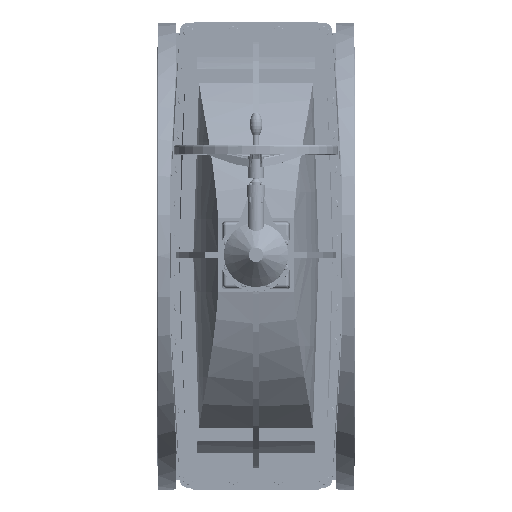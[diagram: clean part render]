
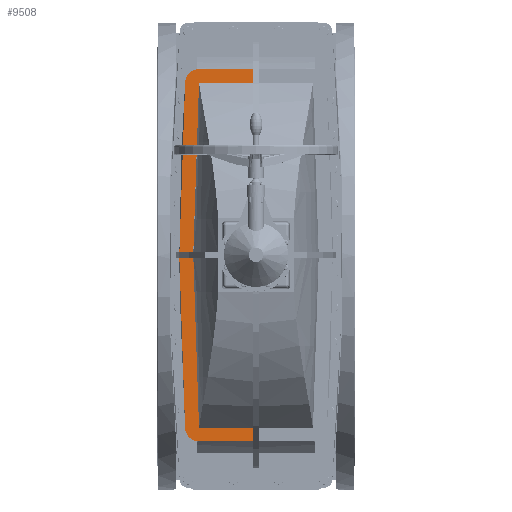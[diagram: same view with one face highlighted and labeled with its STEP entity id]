
A CAD part, top view. The second image highlights one B-rep face of the part: STEP entity #9508.
In plain terms, the highlighted planar face has unit normal (0, 0, 1).
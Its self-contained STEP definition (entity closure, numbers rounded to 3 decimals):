
#9508=ADVANCED_FACE('',(#17904),#17906,.T.);
#17904=FACE_BOUND('',#17905,.T.);
#17905=EDGE_LOOP('',(#31179,#31180,#31181,#31182,#31183,#31184,#31185,#31186,#31187,
#31188,#31189,#31190,#31191,#31192));
#17906=PLANE('',#17907);
#17907=AXIS2_PLACEMENT_3D('',#17908,#17909,#17910);
#17908=CARTESIAN_POINT('',(0.,0.,339.));
#17909=DIRECTION('',(0.,0.,1.));
#17910=DIRECTION('',(1.,0.,0.));
#31179=ORIENTED_EDGE('',*,*,#37355,.F.);
#31180=ORIENTED_EDGE('',*,*,#37356,.T.);
#31181=ORIENTED_EDGE('',*,*,#37211,.T.);
#31182=ORIENTED_EDGE('',*,*,#37300,.T.);
#31183=ORIENTED_EDGE('',*,*,#37315,.T.);
#31184=ORIENTED_EDGE('',*,*,#37254,.T.);
#31185=ORIENTED_EDGE('',*,*,#37244,.T.);
#31186=ORIENTED_EDGE('',*,*,#37357,.T.);
#31187=ORIENTED_EDGE('',*,*,#37358,.F.);
#31188=ORIENTED_EDGE('',*,*,#37359,.T.);
#31189=ORIENTED_EDGE('',*,*,#37342,.T.);
#31190=ORIENTED_EDGE('',*,*,#37306,.T.);
#31191=ORIENTED_EDGE('',*,*,#37324,.T.);
#31192=ORIENTED_EDGE('',*,*,#37360,.T.);
#37211=EDGE_CURVE('',#43084,#43102,#43104,.F.);
#37244=EDGE_CURVE('',#43170,#43167,#43171,.F.);
#37254=EDGE_CURVE('',#43189,#43170,#43190,.F.);
#37300=EDGE_CURVE('',#43102,#43264,#43265,.T.);
#37306=EDGE_CURVE('',#43274,#43275,#43276,.T.);
#37315=EDGE_CURVE('',#43264,#43189,#43292,.F.);
#37324=EDGE_CURVE('',#43275,#43303,#43306,.T.);
#37342=EDGE_CURVE('',#43321,#43274,#43336,.F.);
#37355=EDGE_CURVE('',#43357,#43358,#43359,.F.);
#37356=EDGE_CURVE('',#43357,#43084,#43360,.T.);
#37357=EDGE_CURVE('',#43167,#43361,#43362,.T.);
#37358=EDGE_CURVE('',#43363,#43361,#43364,.F.);
#37359=EDGE_CURVE('',#43363,#43321,#43365,.T.);
#37360=EDGE_CURVE('',#43303,#43358,#43366,.T.);
#43084=VERTEX_POINT('',#62442);
#43102=VERTEX_POINT('',#62480);
#43104=LINE('',#62485,#62486);
#43167=VERTEX_POINT('',#62622);
#43170=VERTEX_POINT('',#62627);
#43171=LINE('',#62628,#62629);
#43189=VERTEX_POINT('',#62669);
#43190=LINE('',#62670,#62671);
#43264=VERTEX_POINT('',#63147);
#43265=LINE('',#63148,#63149);
#43274=VERTEX_POINT('',#63226);
#43275=VERTEX_POINT('',#63227);
#43276=LINE('',#63228,#63229);
#43292=B_SPLINE_CURVE_WITH_KNOTS('',3,
(#63266,#63267,#63268,#63269,#63270,#63271,#63272,#63273,#63274,#63275,#63276,#63277,
#63278,#63279,#63280,#63281),
.UNSPECIFIED.,.F.,.F.,
(4,1,1,1,1,1,1,1,1,1,1,1,1,4),
(0.,0.037,0.093,0.139,0.228,0.306,
0.431,0.5,0.544,0.671,0.802,
0.868,0.962,1.),
.UNSPECIFIED.);
#43303=VERTEX_POINT('',#63363);
#43306=LINE('',#63368,#63369);
#43321=VERTEX_POINT('',#63402);
#43336=LINE('',#63436,#63437);
#43357=VERTEX_POINT('',#63479);
#43358=VERTEX_POINT('',#63480);
#43359=CIRCLE('',#63481,44.333);
#43360=LINE('',#63485,#63486);
#43361=VERTEX_POINT('',#63488);
#43362=LINE('',#63489,#63490);
#43363=VERTEX_POINT('',#63492);
#43364=CIRCLE('',#63493,44.333);
#43365=TRIMMED_CURVE('',#63497,(PARAMETER_VALUE(0.)),(PARAMETER_VALUE(0.491)),
.T.,.PARAMETER.);
#43366=TRIMMED_CURVE('',#63498,(PARAMETER_VALUE(0.509)),(PARAMETER_VALUE(
1.)),.T.,.PARAMETER.);
#62442=CARTESIAN_POINT('',(-591.478,9.5,339.));
#62480=CARTESIAN_POINT('',(-547.869,9.5,339.));
#62485=CARTESIAN_POINT('',(-547.869,9.5,339.));
#62486=VECTOR('',#62487,1.);
#62487=DIRECTION('',(-1.,0.,0.));
#62622=CARTESIAN_POINT('',(591.478,9.5,339.));
#62627=CARTESIAN_POINT('',(547.869,9.5,339.));
#62628=CARTESIAN_POINT('',(591.478,9.5,339.));
#62629=VECTOR('',#62630,1.);
#62630=DIRECTION('',(-1.,0.,0.));
#62669=CARTESIAN_POINT('',(547.869,181.096,339.));
#62670=CARTESIAN_POINT('',(547.869,9.5,339.));
#62671=VECTOR('',#62672,1.);
#62672=DIRECTION('',(0.,1.,0.));
#63147=CARTESIAN_POINT('',(-547.869,181.096,339.));
#63148=CARTESIAN_POINT('',(-547.869,9.5,339.));
#63149=VECTOR('',#63150,1.);
#63150=DIRECTION('',(0.,1.,0.));
#63226=CARTESIAN_POINT('',(9.5,199.283,339.));
#63227=CARTESIAN_POINT('',(-9.5,199.283,339.));
#63228=CARTESIAN_POINT('',(9.5,199.283,339.));
#63229=VECTOR('',#63230,1.);
#63230=DIRECTION('',(-1.,0.,0.));
#63266=CARTESIAN_POINT('',(547.869,181.096,339.));
#63267=CARTESIAN_POINT('',(534.363,181.994,339.));
#63268=CARTESIAN_POINT('',(500.594,184.155,339.));
#63269=CARTESIAN_POINT('',(449.922,187.086,339.));
#63270=CARTESIAN_POINT('',(380.081,190.651,339.));
#63271=CARTESIAN_POINT('',(302.321,193.919,339.));
#63272=CARTESIAN_POINT('',(195.767,197.216,339.));
#63273=CARTESIAN_POINT('',(96.488,198.955,339.));
#63274=CARTESIAN_POINT('',(9.333,199.357,339.));
#63275=CARTESIAN_POINT('',(-78.416,199.101,339.));
#63276=CARTESIAN_POINT('',(-188.873,197.528,339.));
#63277=CARTESIAN_POINT('',(-307.317,193.811,339.));
#63278=CARTESIAN_POINT('',(-413.703,189.075,339.));
#63279=CARTESIAN_POINT('',(-485.888,185.094,339.));
#63280=CARTESIAN_POINT('',(-533.986,182.019,339.));
#63281=CARTESIAN_POINT('',(-547.869,181.096,339.));
#63363=CARTESIAN_POINT('',(-9.5,243.464,339.));
#63368=CARTESIAN_POINT('',(-9.5,199.283,339.));
#63369=VECTOR('',#63370,1.);
#63370=DIRECTION('',(0.,1.,0.));
#63402=CARTESIAN_POINT('',(9.5,243.464,339.));
#63436=CARTESIAN_POINT('',(9.5,199.283,339.));
#63437=VECTOR('',#63438,1.);
#63438=DIRECTION('',(0.,1.,0.));
#63479=CARTESIAN_POINT('',(-591.478,180.995,339.));
#63480=CARTESIAN_POINT('',(-550.082,225.23,339.));
#63481=AXIS2_PLACEMENT_3D('',#63482,#63483,#63484);
#63482=CARTESIAN_POINT('',(-547.144,180.995,339.));
#63483=DIRECTION('',(0.,0.,1.));
#63484=DIRECTION('',(-0.066,0.998,0.));
#63485=CARTESIAN_POINT('',(-591.478,180.995,339.));
#63486=VECTOR('',#63487,1.);
#63487=DIRECTION('',(0.,-1.,0.));
#63488=CARTESIAN_POINT('',(591.478,180.995,339.));
#63489=CARTESIAN_POINT('',(591.478,9.5,339.));
#63490=VECTOR('',#63491,1.);
#63491=DIRECTION('',(0.,1.,0.));
#63492=CARTESIAN_POINT('',(550.082,225.23,339.));
#63493=AXIS2_PLACEMENT_3D('',#63494,#63495,#63496);
#63494=CARTESIAN_POINT('',(547.144,180.995,339.));
#63495=DIRECTION('',(0.,0.,1.));
#63496=DIRECTION('',(1.,0.,0.));
#63497=B_SPLINE_CURVE_WITH_KNOTS('',3,
(#80506,#80507,#80508,#80509,#80510,#80511),
.UNSPECIFIED.,.F.,.F.,
(4,1,1,4),
(0.,0.333,0.667,1.),
.UNSPECIFIED.);
#63498=B_SPLINE_CURVE_WITH_KNOTS('',3,
(#80512,#80513,#80514,#80515,#80516,#80517),
.UNSPECIFIED.,.F.,.F.,
(4,1,1,4),
(0.,0.333,0.667,1.),
.UNSPECIFIED.);
#80506=CARTESIAN_POINT('',(550.082,225.23,339.));
#80507=CARTESIAN_POINT('',(428.017,233.337,339.));
#80508=CARTESIAN_POINT('',(183.533,244.145,339.));
#80509=CARTESIAN_POINT('',(-183.542,244.144,339.));
#80510=CARTESIAN_POINT('',(-428.02,233.336,339.));
#80511=CARTESIAN_POINT('',(-550.082,225.23,339.));
#80512=CARTESIAN_POINT('',(550.082,225.23,339.));
#80513=CARTESIAN_POINT('',(428.017,233.337,339.));
#80514=CARTESIAN_POINT('',(183.533,244.145,339.));
#80515=CARTESIAN_POINT('',(-183.542,244.144,339.));
#80516=CARTESIAN_POINT('',(-428.02,233.336,339.));
#80517=CARTESIAN_POINT('',(-550.082,225.23,339.));
